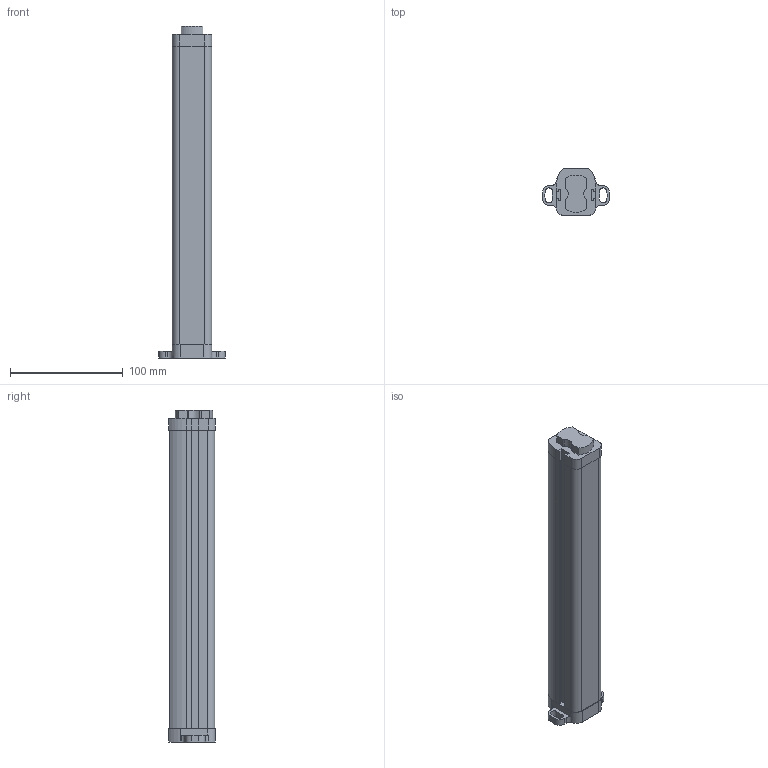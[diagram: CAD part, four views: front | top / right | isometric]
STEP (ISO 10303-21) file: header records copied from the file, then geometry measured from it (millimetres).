
FILE_DESCRIPTION((''),'2;1');
FILE_NAME('2015864','2014-05-14T',('rink'),(''),'PRO/ENGINEER BY PARAMETRIC TECHNOLOGY CORPORATION, 2011040','PRO/ENGINEER BY PARAMETRIC TECHNOLOGY CORPORATION, 2011040','');
FILE_SCHEMA(('AUTOMOTIVE_DESIGN_CC2 { 1 2 10303 214 -1 1 5 2 }'));
Length unit declared in the file: millimetre
Products named in the file (1): 2015864
Bounding box: 59 x 41.6 x 294 mm (x, y, z)
Volume: 366507.5 mm3; surface area: 52848.2 mm2
Topology: 1 solids, 1 shells, 103 faces, 328 edges, 268 vertices
Faces by surface type: plane 65, cylinder 38
Entity records: 5389 total; most frequent: CARTESIAN_POINT 632, DIRECTION 614, ORIENTED_EDGE 588, PRESENTATION_STYLE_ASSIGNMENT 394, STYLED_ITEM 331, CURVE_STYLE 329, EDGE_CURVE 294, VECTOR 250
